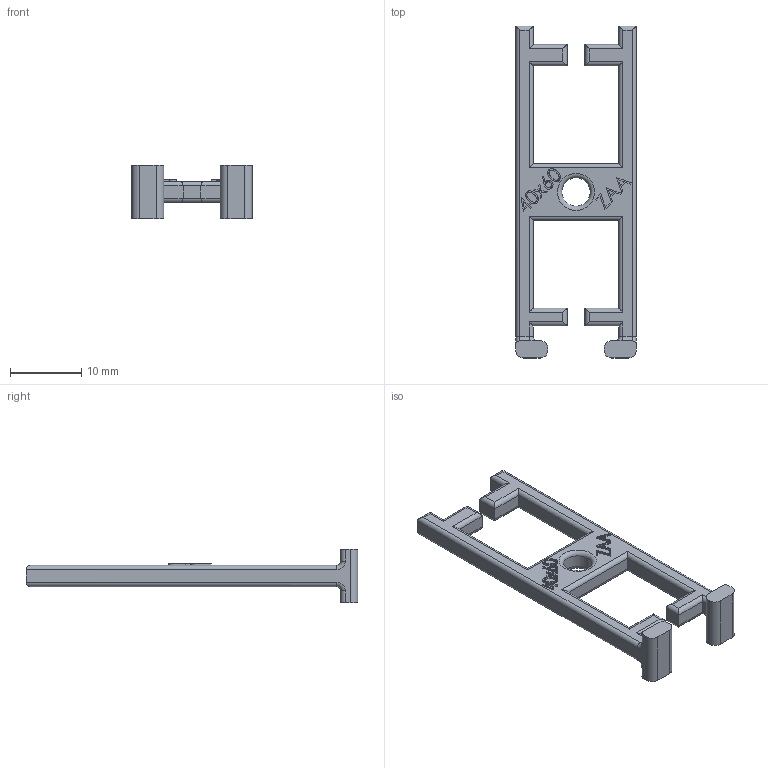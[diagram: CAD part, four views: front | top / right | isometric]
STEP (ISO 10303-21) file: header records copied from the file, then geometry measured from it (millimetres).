
FILE_DESCRIPTION((''),'2; 1');
FILE_NAME('','2026-03-26T10:14:33',(''),(''),'CST STEP Exporter V1.0','Unknown','');
FILE_SCHEMA(('CONFIG_CONTROL_DESIGN'));
Length unit declared in the file: metre
Bounding box: 17 x 46.7 x 7.5 mm (x, y, z)
Surface area: 1534.7 mm2 (no closed solid volume)
Topology: 0 solids, 1 shells, 215 faces, 534 edges, 334 vertices
Faces by surface type: plane 109, cylinder 69, extrusion 27, torus 10
Full cylindrical faces by diameter (mm): 4 x1
Entity records: 8796 total; most frequent: CARTESIAN_POINT 2085, ORIENTED_EDGE 1058, DIRECTION 956, EDGE_CURVE 531, VECTOR 404, LINE 377, VERTEX_POINT 334, AXIS2_PLACEMENT_3D 276
